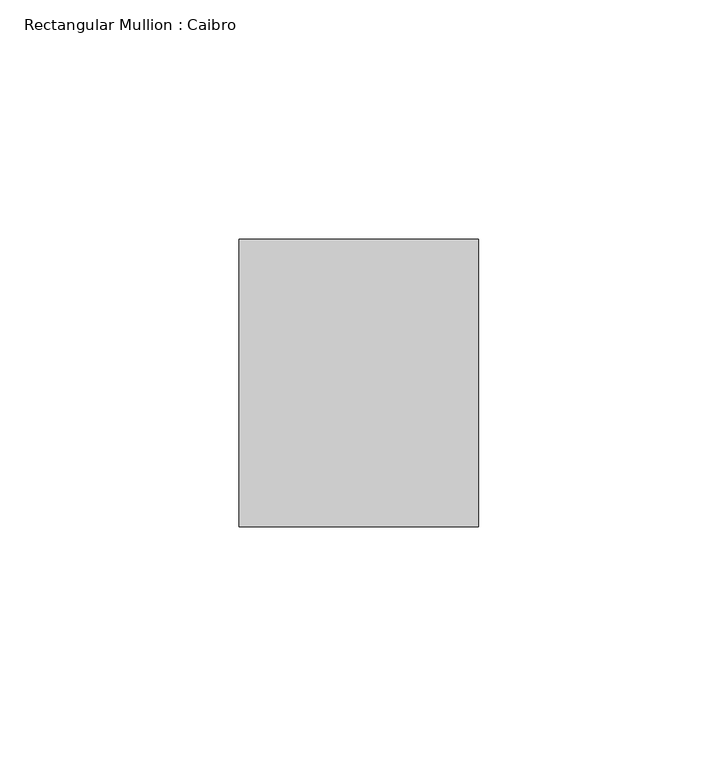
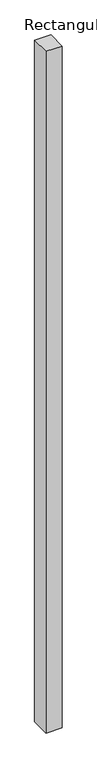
"""IFC4 building model written with IfcOpenShell, lengths in millimetres: member geometry, Rectangular Mullion : Caibro."""

from ifc_helpers import new_model, si_unit, frame, origin, place, context, project, spatial, polyline, outline, extrude, source, transform, mapped, element, save


def rectangular_mullion_caibro_9bd7bc61(model_context):
    return source(origin(), model_context, "Body", "SweptSolid", [
        extrude(outline(polyline([(-25.0, -60.0), (-25.0, 0.0), (25.0, 0.0), (25.0, -60.0), (-25.0, -60.0)])), frame((0.0, 0.0, -2219.7393248), z_axis=(0.0, 0.0, 1.0), x_axis=(1.0, 0.0, 0.0)), (0.0, 0.0, 1.0), 2219.7393248),
    ])


if __name__ == "__main__":
    model = new_model("IFC4")
    model_context = context("Model", 3, world=origin())
    ifc_project = project(units=[si_unit("LENGTHUNIT", "METRE", prefix="MILLI")], contexts=[model_context])
    site = spatial("IfcSite", under=ifc_project)
    building = spatial("IfcBuilding", under=site)
    placement = place(None, origin())
    rectangular_mullion_caibro_shape = rectangular_mullion_caibro_9bd7bc61(model_context)
    element("IfcMember", 1, ObjectType="Rectangular Mullion : Caibro", at=placement, inside=building, context=model_context, shape_type="MappedRepresentation", body=[
        mapped(rectangular_mullion_caibro_shape, transform((0.0, 0.0, 0.0), x_axis=(1.0, 0.0, 0.0), y_axis=(0.0, 1.0, 0.0), z_axis=(0.0, 0.0, 1.0))),
    ])
    save(model, "model.ifc")
